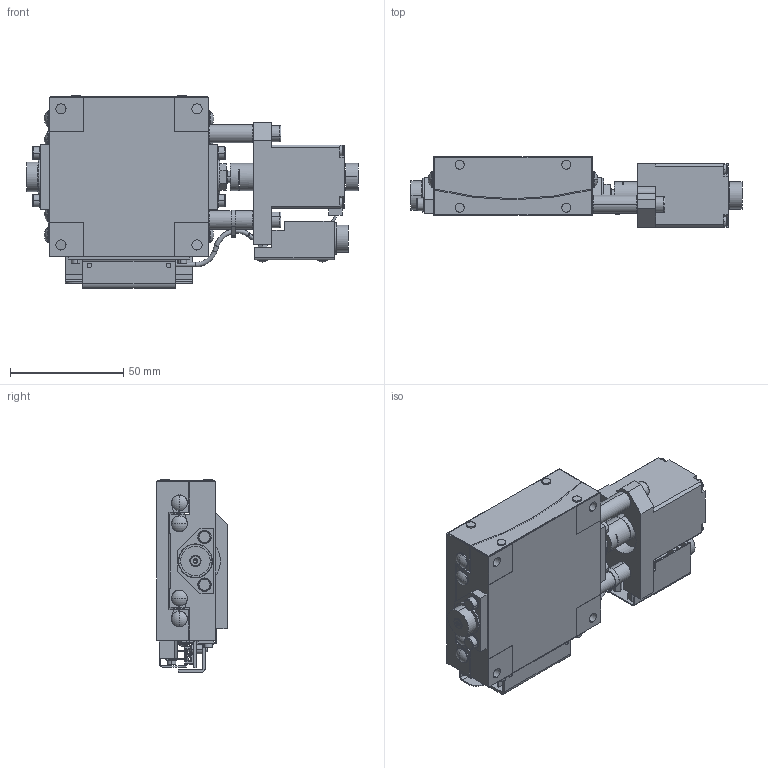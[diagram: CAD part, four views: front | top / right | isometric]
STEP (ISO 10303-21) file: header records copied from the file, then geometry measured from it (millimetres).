
FILE_DESCRIPTION (( 'STEP AP214' ), '1' );
FILE_NAME ('KGB07122AM-LT.STEP', '2024-04-17T01:08:46', ( '' ), ( '' ), 'SwSTEP 2.0', 'SolidWorks 2017', '' );
FILE_SCHEMA (( 'AUTOMOTIVE_DESIGN' ));
Length unit declared in the file: millimetre
Products named in the file (5): KGB-70-T-L; KGB07122AM-LT; KGB-TOP-07122-L; KGB-BASE-07122-L; KGB-70-M-12-L
Assembly tree (4 placements, depth 2):
  KGB07122AM-LT
    KGB-BASE-07122-L
    KGB-TOP-07122-L
    KGB-70-T-L
    KGB-70-M-12-L
Bounding box: 146.4 x 31 x 85.1 mm (x, y, z)
Volume: 165965.5 mm3; surface area: 64344.3 mm2
Topology: 7 solids, 47 shells, 1430 faces, 3504 edges, 2257 vertices
Faces by surface type: plane 735, cylinder 476, cone 127, torus 48, bspline 24, sphere 20
Entity records: 43416 total; most frequent: CARTESIAN_POINT 8303, DIRECTION 7477, ORIENTED_EDGE 6924, EDGE_CURVE 3462, AXIS2_PLACEMENT_3D 2677, VERTEX_POINT 2257, LINE 2123, VECTOR 2123
